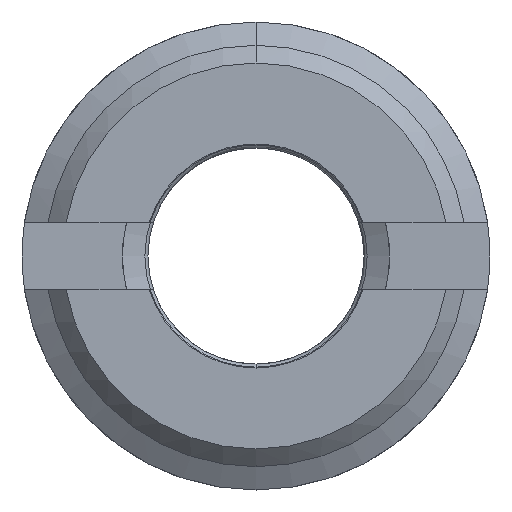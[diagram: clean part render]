
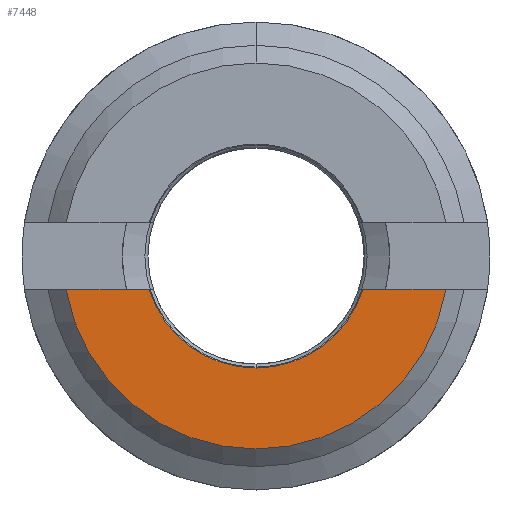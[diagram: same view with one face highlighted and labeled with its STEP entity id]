
A CAD part, front view. The second image highlights one B-rep face of the part: STEP entity #7448.
In plain terms, the highlighted planar face has unit normal (0, -1, 0).
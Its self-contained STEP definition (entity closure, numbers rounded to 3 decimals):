
#30 = CIRCLE ( 'NONE', #6634, 5.773 ) ;
#275 = EDGE_CURVE ( 'NONE', #7305, #6562, #6411, .T. ) ;
#317 = EDGE_CURVE ( 'NONE', #2320, #7305, #3065, .T. ) ;
#750 = CIRCLE ( 'NONE', #1769, 3.35 ) ;
#862 = DIRECTION ( 'NONE',  ( 0., -1., 0. ) ) ;
#1372 = EDGE_CURVE ( 'NONE', #6562, #7154, #750, .T. ) ;
#1409 = VERTEX_POINT ( 'NONE', #6706 ) ;
#1443 = CARTESIAN_POINT ( 'NONE',  ( 110.799, 148.512, -1. ) ) ;
#1769 = AXIS2_PLACEMENT_3D ( 'NONE', #3383, #5418, #5245 ) ;
#1801 = VECTOR ( 'NONE', #4326, 1000. ) ;
#1838 = EDGE_LOOP ( 'NONE', ( #5403, #5151, #3073, #3210, #5326 ) ) ;
#2021 = DIRECTION ( 'NONE',  ( 1., 0., 0. ) ) ;
#2024 = CARTESIAN_POINT ( 'NONE',  ( 116.485, 148.512, 0. ) ) ;
#2320 = VERTEX_POINT ( 'NONE', #1443 ) ;
#2371 = CARTESIAN_POINT ( 'NONE',  ( 119.682, 148.512, -1. ) ) ;
#2498 = FACE_OUTER_BOUND ( 'NONE', #1838, .T. ) ;
#2601 = DIRECTION ( 'NONE',  ( 0., -1., 0. ) ) ;
#2665 = DIRECTION ( 'NONE',  ( 0., 0., -1. ) ) ;
#3065 = LINE ( 'NONE', #5510, #6031 ) ;
#3073 = ORIENTED_EDGE ( 'NONE', *, *, #4093, .F. ) ;
#3131 = DIRECTION ( 'NONE',  ( 0., 0., -1. ) ) ;
#3210 = ORIENTED_EDGE ( 'NONE', *, *, #1372, .F. ) ;
#3213 = DIRECTION ( 'NONE',  ( 0., -1., 0. ) ) ;
#3229 = CARTESIAN_POINT ( 'NONE',  ( 112.291, 148.512, 0. ) ) ;
#3240 = CARTESIAN_POINT ( 'NONE',  ( 116.485, 148.512, 0. ) ) ;
#3383 = CARTESIAN_POINT ( 'NONE',  ( 116.485, 148.512, 0. ) ) ;
#4093 = EDGE_CURVE ( 'NONE', #7154, #1409, #5127, .T. ) ;
#4259 = AXIS2_PLACEMENT_3D ( 'NONE', #3229, #862, #4984 ) ;
#4326 = DIRECTION ( 'NONE',  ( 1., 0., 0. ) ) ;
#4379 = CARTESIAN_POINT ( 'NONE',  ( 125.485, 148.512, -1. ) ) ;
#4726 = CARTESIAN_POINT ( 'NONE',  ( 116.485, 148.512, -3.35 ) ) ;
#4963 = PLANE ( 'NONE',  #4259 ) ;
#4984 = DIRECTION ( 'NONE',  ( 0., 0., -1. ) ) ;
#5127 = LINE ( 'NONE', #4379, #1801 ) ;
#5151 = ORIENTED_EDGE ( 'NONE', *, *, #6424, .T. ) ;
#5245 = DIRECTION ( 'NONE',  ( 0., 0., -1. ) ) ;
#5326 = ORIENTED_EDGE ( 'NONE', *, *, #275, .F. ) ;
#5403 = ORIENTED_EDGE ( 'NONE', *, *, #317, .F. ) ;
#5418 = DIRECTION ( 'NONE',  ( 0., -1., 0. ) ) ;
#5437 = CARTESIAN_POINT ( 'NONE',  ( 113.287, 148.512, -1. ) ) ;
#5510 = CARTESIAN_POINT ( 'NONE',  ( 125.485, 148.512, -1. ) ) ;
#6031 = VECTOR ( 'NONE', #2021, 1000. ) ;
#6411 = CIRCLE ( 'NONE', #7324, 3.35 ) ;
#6424 = EDGE_CURVE ( 'NONE', #2320, #1409, #30, .T. ) ;
#6562 = VERTEX_POINT ( 'NONE', #4726 ) ;
#6634 = AXIS2_PLACEMENT_3D ( 'NONE', #3240, #3213, #3131 ) ;
#6706 = CARTESIAN_POINT ( 'NONE',  ( 122.17, 148.512, -1. ) ) ;
#7154 = VERTEX_POINT ( 'NONE', #2371 ) ;
#7305 = VERTEX_POINT ( 'NONE', #5437 ) ;
#7324 = AXIS2_PLACEMENT_3D ( 'NONE', #2024, #2601, #2665 ) ;
#7448 = ADVANCED_FACE ( 'NONE', ( #2498 ), #4963, .T. ) ;
